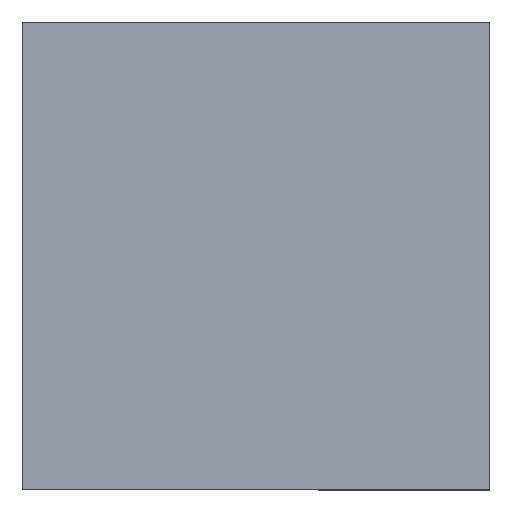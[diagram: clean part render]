
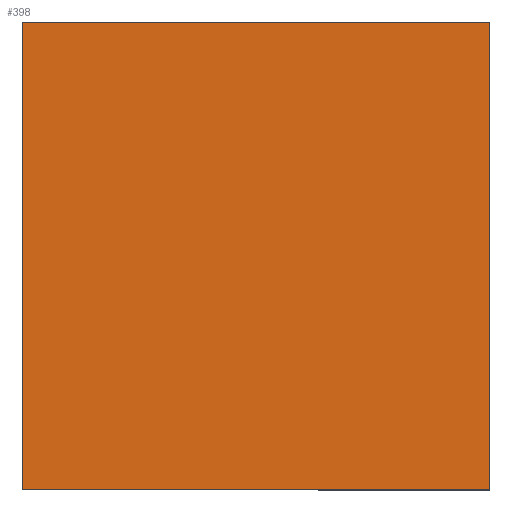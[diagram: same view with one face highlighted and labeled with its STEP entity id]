
A CAD part, top view. The second image highlights one B-rep face of the part: STEP entity #398.
In plain terms, the highlighted planar face has unit normal (0, 0, 1).
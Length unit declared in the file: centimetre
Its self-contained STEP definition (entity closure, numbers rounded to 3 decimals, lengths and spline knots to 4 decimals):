
#5 = EDGE_CURVE ( 'NONE', #403, #86, #215, .T. ) ;
#18 = DIRECTION ( 'NONE',  ( 1., 0., 0. ) ) ;
#21 = FACE_OUTER_BOUND ( 'NONE', #222, .T. ) ;
#29 = LINE ( 'NONE', #162, #381 ) ;
#33 = CARTESIAN_POINT ( 'NONE',  ( 0., 0., 1000. ) ) ;
#35 = VERTEX_POINT ( 'NONE', #33 ) ;
#47 = LINE ( 'NONE', #285, #430 ) ;
#57 = CARTESIAN_POINT ( 'NONE',  ( 0., 0., 1000. ) ) ;
#59 = DIRECTION ( 'NONE',  ( 0., 0., 1. ) ) ;
#86 = VERTEX_POINT ( 'NONE', #307 ) ;
#92 = VECTOR ( 'NONE', #218, 100. ) ;
#95 = AXIS2_PLACEMENT_3D ( 'NONE', #57, #59, #18 ) ;
#103 = VERTEX_POINT ( 'NONE', #311 ) ;
#125 = DIRECTION ( 'NONE',  ( 0., -1., 0. ) ) ;
#162 = CARTESIAN_POINT ( 'NONE',  ( 0., 1000., 1000. ) ) ;
#171 = ORIENTED_EDGE ( 'NONE', *, *, #5, .T. ) ;
#215 = LINE ( 'NONE', #319, #92 ) ;
#218 = DIRECTION ( 'NONE',  ( -1., 0., 0. ) ) ;
#222 = EDGE_LOOP ( 'NONE', ( #340, #223, #342, #171 ) ) ;
#223 = ORIENTED_EDGE ( 'NONE', *, *, #251, .T. ) ;
#248 = EDGE_CURVE ( 'NONE', #103, #403, #47, .T. ) ;
#251 = EDGE_CURVE ( 'NONE', #35, #103, #328, .T. ) ;
#255 = PLANE ( 'NONE',  #95 ) ;
#261 = VECTOR ( 'NONE', #401, 100. ) ;
#285 = CARTESIAN_POINT ( 'NONE',  ( 1000., 1000., 1000. ) ) ;
#289 = CARTESIAN_POINT ( 'NONE',  ( 1000., 1000., 1000. ) ) ;
#298 = CARTESIAN_POINT ( 'NONE',  ( 0., 0., 1000. ) ) ;
#307 = CARTESIAN_POINT ( 'NONE',  ( 0., 1000., 1000. ) ) ;
#311 = CARTESIAN_POINT ( 'NONE',  ( 1000., 0., 1000. ) ) ;
#319 = CARTESIAN_POINT ( 'NONE',  ( 0., 1000., 1000. ) ) ;
#328 = LINE ( 'NONE', #298, #261 ) ;
#333 = EDGE_CURVE ( 'NONE', #86, #35, #29, .T. ) ;
#340 = ORIENTED_EDGE ( 'NONE', *, *, #333, .T. ) ;
#342 = ORIENTED_EDGE ( 'NONE', *, *, #248, .T. ) ;
#362 = DIRECTION ( 'NONE',  ( 0., 1., 0. ) ) ;
#381 = VECTOR ( 'NONE', #125, 100. ) ;
#398 = ADVANCED_FACE ( 'NONE', ( #21 ), #255, .T. ) ;
#401 = DIRECTION ( 'NONE',  ( 1., 0., 0. ) ) ;
#403 = VERTEX_POINT ( 'NONE', #289 ) ;
#430 = VECTOR ( 'NONE', #362, 100. ) ;
